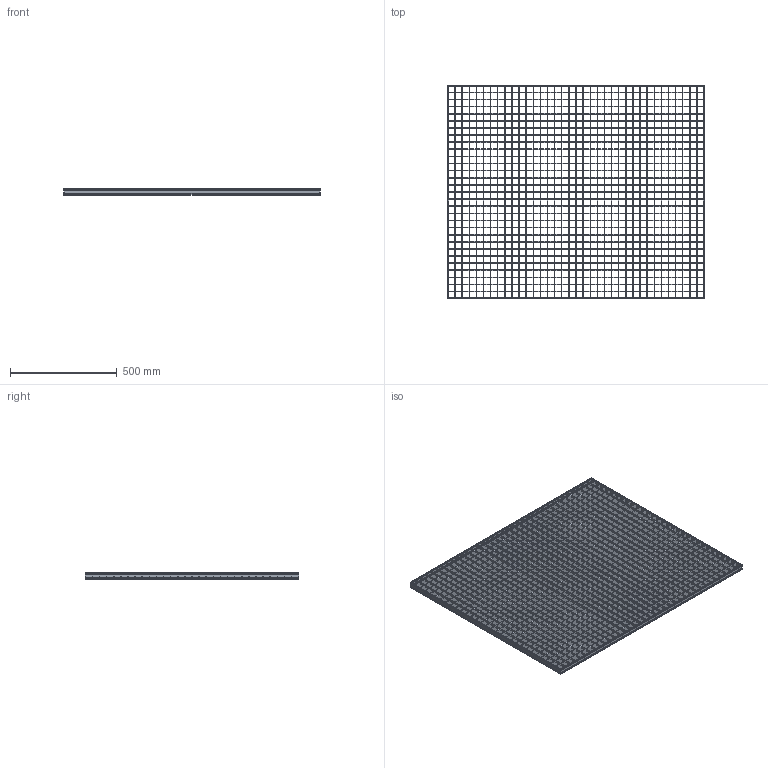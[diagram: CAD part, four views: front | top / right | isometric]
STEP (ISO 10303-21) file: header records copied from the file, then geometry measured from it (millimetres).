
FILE_DESCRIPTION(/* description */ ('STEP AP242','CAx-IF Rec.Pracs.---Representation and Presentation of Product Manufacturing Information (PMI)---4.0---2014-10-13','CAx-IF Rec.Pracs.---3D Tessellated Geometry---0.4---2014-09-14','2;1'),/* implementation_level */ '2;1');
FILE_NAME(/* name */ 'Lichtgitter_Pressure_locked_gratings PX3 330-33-3-1-1-1200-1000_(350_0)',/* time_stamp */ '2026-04-23T09:11:26+02:00',/* author */ ('License CC BY-ND 4.0'),/* organization */ ('CADENAS'),/* preprocessor_version */ 'ST-DEVELOPER v20',/* originating_system */ 'PARTsolutions',/* authorisation */ ' ');
FILE_SCHEMA (('AP242_MANAGED_MODEL_BASED_3D_ENGINEERING_MIM_LF { 1 0 10303 442 1 1 4 }'));
Length unit declared in the file: millimetre
Products named in the file (5): Lichtgitter_Pressure_locked_gratings PX3 330-33-3-1-1-1200-1000_(350_
0); Lichtgitter PX3 330-33-3_(Pressroste_350_1_1000_1200)_VERTICAL; Lichtgitter PX3 330-33-3_(Pressroste_350_1_1000_1200)_HORIZONTAL_C; Lichtgitter PX3 330-33-3_(Pressroste_350_1_1000_1200)_HORIZONTAL; Lichtgitter PX3 330-33-3_(Pressroste_350_1_1000_1200)_VERTICAL_C
Assembly tree (68 placements, depth 2):
  Lichtgitter_Pressure_locked_gratings PX3 330-33-3-1-1-1200-1000_(350_
0)
    Lichtgitter PX3 330-33-3_(Pressroste_350_1_1000_1200)_VERTICAL  x2
    Lichtgitter PX3 330-33-3_(Pressroste_350_1_1000_1200)_HORIZONTAL_C  x29
    Lichtgitter PX3 330-33-3_(Pressroste_350_1_1000_1200)_HORIZONTAL  x2
    Lichtgitter PX3 330-33-3_(Pressroste_350_1_1000_1200)_VERTICAL_C  x35
Bounding box: 1200 x 1000 x 30 mm (x, y, z)
Volume: 4133811.8 mm3; surface area: 3449652.4 mm2
Topology: 68 solids, 68 shells, 4516 faces, 13140 edges, 8760 vertices
Faces by surface type: plane 4484, cylinder 32
Entity records: 6687 total; most frequent: CARTESIAN_POINT 1157, DIRECTION 1086, ORIENTED_EDGE 1080, EDGE_CURVE 540, LINE 508, VECTOR 508, VERTEX_POINT 360, AXIS2_PLACEMENT_3D 289
